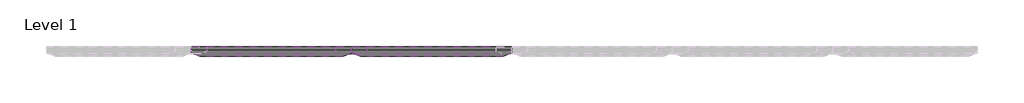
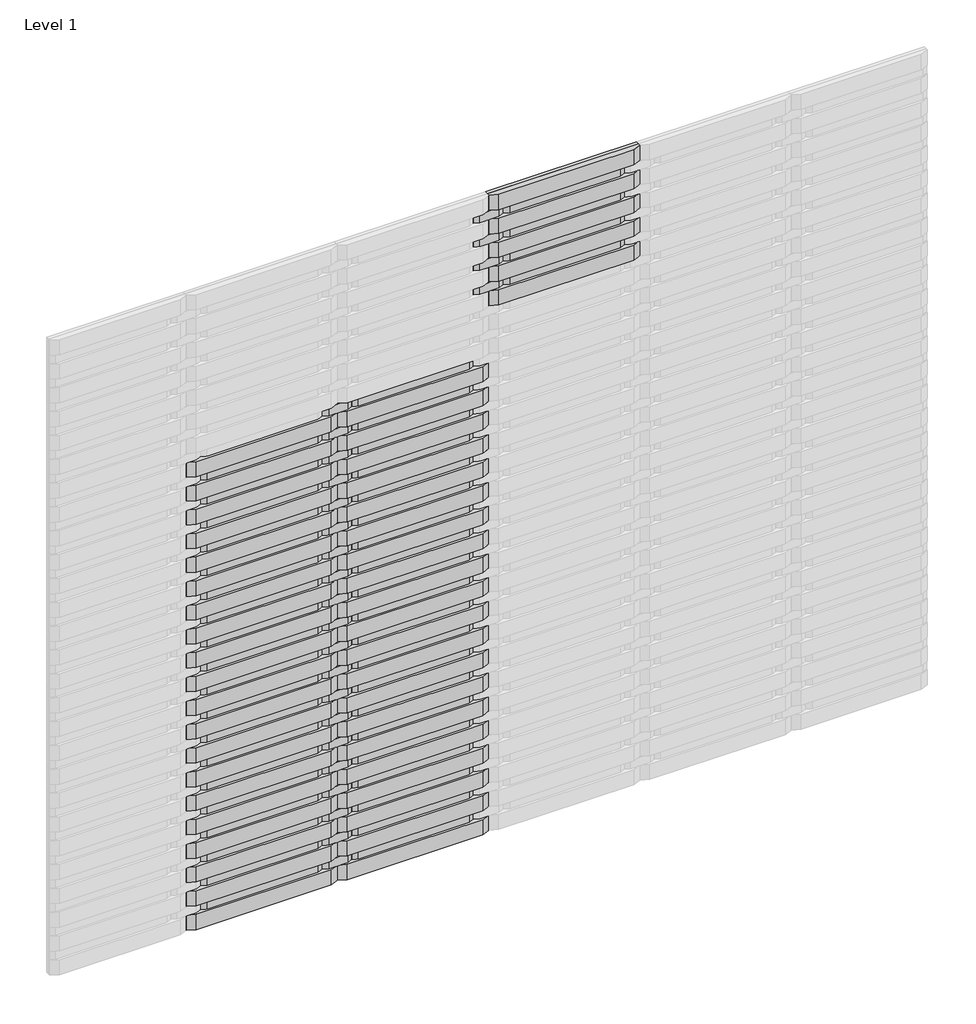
# One storey, part 2 of 4: 112 proxies.
"""IFC4 building model written with IfcOpenShell, lengths in millimetres."""

from ifc_helpers import new_model, si_unit, origin, place, context, project, spatial, transform, mapped, element, save
from components import specialty_equipment_40f1bc00, specialty_equipment_c238b70d, specialty_equipment_e09701c8

model = new_model("IFC4")

# Units and contexts
model_context = context("Model", 3, world=origin())
ifc_project = project(units=[si_unit("LENGTHUNIT", "METRE", prefix="MILLI")], contexts=[model_context])

# Site, building, storey
site = spatial("IfcSite", under=ifc_project)
building = spatial("IfcBuilding", under=site)
storey = spatial("IfcBuildingStorey", under=building, Name="Level 1", Elevation=0.0)

# Proxies
placement = place(None, origin())
specialty_equipment_shape = specialty_equipment_40f1bc00(model_context)
element("IfcBuildingElementProxy", 1, Name="Spinneybeck_ARO Plank 8 : A - 2’-9” x 3 1/2” x 1 1/4”", ObjectType="Spinneybeck_ARO Plank 8 : A - 2’-9” x 3 1/2” x 1 1/4”", at=placement, inside=storey, context=model_context, shape_type="MappedRepresentation", body=[
    mapped(specialty_equipment_shape, transform((2814.579612, 2593.3070483, 3755.55), x_axis=(1.0, 0.0, 0.0), y_axis=(0.0, 0.0, 1.0), z_axis=(0.0, -1.0, 0.0))),
])
element("IfcBuildingElementProxy", 2, Name="Spinneybeck_ARO Plank 8 : A - 2’-9” x 3 1/2” x 1 1/4”", ObjectType="Spinneybeck_ARO Plank 8 : A - 2’-9” x 3 1/2” x 1 1/4”", at=placement, inside=storey, context=model_context, shape_type="MappedRepresentation", body=[
    mapped(specialty_equipment_shape, transform((2814.579612, 2593.3070483, 3615.85), x_axis=(1.0, 0.0, 0.0), y_axis=(0.0, 0.0, 1.0), z_axis=(0.0, -1.0, 0.0))),
])
element("IfcBuildingElementProxy", 3, Name="Spinneybeck_ARO Plank 8 : A - 2’-9” x 3 1/2” x 1 1/4”", ObjectType="Spinneybeck_ARO Plank 8 : A - 2’-9” x 3 1/2” x 1 1/4”", at=placement, inside=storey, context=model_context, shape_type="MappedRepresentation", body=[
    mapped(specialty_equipment_shape, transform((2814.579612, 2593.3070483, 3476.15), x_axis=(1.0, 0.0, 0.0), y_axis=(0.0, 0.0, 1.0), z_axis=(0.0, -1.0, 0.0))),
])
element("IfcBuildingElementProxy", 4, Name="Spinneybeck_ARO Plank 8 : A - 2’-9” x 3 1/2” x 1 1/4”", ObjectType="Spinneybeck_ARO Plank 8 : A - 2’-9” x 3 1/2” x 1 1/4”", at=placement, inside=storey, context=model_context, shape_type="MappedRepresentation", body=[
    mapped(specialty_equipment_shape, transform((2814.579612, 2593.3070483, 3336.45), x_axis=(1.0, 0.0, 0.0), y_axis=(0.0, 0.0, 1.0), z_axis=(0.0, -1.0, 0.0))),
])
element("IfcBuildingElementProxy", 5, Name="Spinneybeck_ARO Plank 8 : A - 2’-9” x 3 1/2” x 1 1/4”", ObjectType="Spinneybeck_ARO Plank 8 : A - 2’-9” x 3 1/2” x 1 1/4”", at=placement, inside=storey, context=model_context, shape_type="MappedRepresentation", body=[
    mapped(specialty_equipment_shape, transform((2814.579612, 2593.3070483, 3196.75), x_axis=(1.0, 0.0, 0.0), y_axis=(0.0, 0.0, 1.0), z_axis=(0.0, -1.0, 0.0))),
])
element("IfcBuildingElementProxy", 6, Name="Spinneybeck_ARO Plank 8 : A - 2’-9” x 3 1/2” x 1 1/4”", ObjectType="Spinneybeck_ARO Plank 8 : A - 2’-9” x 3 1/2” x 1 1/4”", at=placement, inside=storey, context=model_context, shape_type="MappedRepresentation", body=[
    mapped(specialty_equipment_shape, transform((1138.179612, 2593.3070483, 2777.65), x_axis=(1.0, 0.0, 0.0), y_axis=(0.0, 0.0, 1.0), z_axis=(0.0, -1.0, 0.0))),
])
element("IfcBuildingElementProxy", 7, Name="Spinneybeck_ARO Plank 8 : A - 2’-9” x 3 1/2” x 1 1/4”", ObjectType="Spinneybeck_ARO Plank 8 : A - 2’-9” x 3 1/2” x 1 1/4”", at=placement, inside=storey, context=model_context, shape_type="MappedRepresentation", body=[
    mapped(specialty_equipment_shape, transform((1976.379612, 2593.3070483, 2777.65), x_axis=(1.0, 0.0, 0.0), y_axis=(0.0, 0.0, 1.0), z_axis=(0.0, -1.0, 0.0))),
])
element("IfcBuildingElementProxy", 8, Name="Spinneybeck_ARO Plank 8 : A - 2’-9” x 3 1/2” x 1 1/4”", ObjectType="Spinneybeck_ARO Plank 8 : A - 2’-9” x 3 1/2” x 1 1/4”", at=placement, inside=storey, context=model_context, shape_type="MappedRepresentation", body=[
    mapped(specialty_equipment_shape, transform((1138.179612, 2593.3070483, 2637.95), x_axis=(1.0, 0.0, 0.0), y_axis=(0.0, 0.0, 1.0), z_axis=(0.0, -1.0, 0.0))),
])
element("IfcBuildingElementProxy", 9, Name="Spinneybeck_ARO Plank 8 : A - 2’-9” x 3 1/2” x 1 1/4”", ObjectType="Spinneybeck_ARO Plank 8 : A - 2’-9” x 3 1/2” x 1 1/4”", at=placement, inside=storey, context=model_context, shape_type="MappedRepresentation", body=[
    mapped(specialty_equipment_shape, transform((1976.379612, 2593.3070483, 2637.95), x_axis=(1.0, 0.0, 0.0), y_axis=(0.0, 0.0, 1.0), z_axis=(0.0, -1.0, 0.0))),
])
element("IfcBuildingElementProxy", 10, Name="Spinneybeck_ARO Plank 8 : A - 2’-9” x 3 1/2” x 1 1/4”", ObjectType="Spinneybeck_ARO Plank 8 : A - 2’-9” x 3 1/2” x 1 1/4”", at=placement, inside=storey, context=model_context, shape_type="MappedRepresentation", body=[
    mapped(specialty_equipment_shape, transform((1138.179612, 2593.3070483, 2498.25), x_axis=(1.0, 0.0, 0.0), y_axis=(0.0, 0.0, 1.0), z_axis=(0.0, -1.0, 0.0))),
])
element("IfcBuildingElementProxy", 11, Name="Spinneybeck_ARO Plank 8 : A - 2’-9” x 3 1/2” x 1 1/4”", ObjectType="Spinneybeck_ARO Plank 8 : A - 2’-9” x 3 1/2” x 1 1/4”", at=placement, inside=storey, context=model_context, shape_type="MappedRepresentation", body=[
    mapped(specialty_equipment_shape, transform((1976.379612, 2593.3070483, 2498.25), x_axis=(1.0, 0.0, 0.0), y_axis=(0.0, 0.0, 1.0), z_axis=(0.0, -1.0, 0.0))),
])
element("IfcBuildingElementProxy", 12, Name="Spinneybeck_ARO Plank 8 : A - 2’-9” x 3 1/2” x 1 1/4”", ObjectType="Spinneybeck_ARO Plank 8 : A - 2’-9” x 3 1/2” x 1 1/4”", at=placement, inside=storey, context=model_context, shape_type="MappedRepresentation", body=[
    mapped(specialty_equipment_shape, transform((1138.179612, 2593.3070483, 2358.55), x_axis=(1.0, 0.0, 0.0), y_axis=(0.0, 0.0, 1.0), z_axis=(0.0, -1.0, 0.0))),
])
element("IfcBuildingElementProxy", 13, Name="Spinneybeck_ARO Plank 8 : A - 2’-9” x 3 1/2” x 1 1/4”", ObjectType="Spinneybeck_ARO Plank 8 : A - 2’-9” x 3 1/2” x 1 1/4”", at=placement, inside=storey, context=model_context, shape_type="MappedRepresentation", body=[
    mapped(specialty_equipment_shape, transform((1976.379612, 2593.3070483, 2358.55), x_axis=(1.0, 0.0, 0.0), y_axis=(0.0, 0.0, 1.0), z_axis=(0.0, -1.0, 0.0))),
])
element("IfcBuildingElementProxy", 14, Name="Spinneybeck_ARO Plank 8 : A - 2’-9” x 3 1/2” x 1 1/4”", ObjectType="Spinneybeck_ARO Plank 8 : A - 2’-9” x 3 1/2” x 1 1/4”", at=placement, inside=storey, context=model_context, shape_type="MappedRepresentation", body=[
    mapped(specialty_equipment_shape, transform((1138.179612, 2593.3070483, 2218.85), x_axis=(1.0, 0.0, 0.0), y_axis=(0.0, 0.0, 1.0), z_axis=(0.0, -1.0, 0.0))),
])
element("IfcBuildingElementProxy", 15, Name="Spinneybeck_ARO Plank 8 : A - 2’-9” x 3 1/2” x 1 1/4”", ObjectType="Spinneybeck_ARO Plank 8 : A - 2’-9” x 3 1/2” x 1 1/4”", at=placement, inside=storey, context=model_context, shape_type="MappedRepresentation", body=[
    mapped(specialty_equipment_shape, transform((1976.379612, 2593.3070483, 2218.85), x_axis=(1.0, 0.0, 0.0), y_axis=(0.0, 0.0, 1.0), z_axis=(0.0, -1.0, 0.0))),
])
element("IfcBuildingElementProxy", 16, Name="Spinneybeck_ARO Plank 8 : A - 2’-9” x 3 1/2” x 1 1/4”", ObjectType="Spinneybeck_ARO Plank 8 : A - 2’-9” x 3 1/2” x 1 1/4”", at=placement, inside=storey, context=model_context, shape_type="MappedRepresentation", body=[
    mapped(specialty_equipment_shape, transform((1138.179612, 2593.3070483, 2079.15), x_axis=(1.0, 0.0, 0.0), y_axis=(0.0, 0.0, 1.0), z_axis=(0.0, -1.0, 0.0))),
])
element("IfcBuildingElementProxy", 17, Name="Spinneybeck_ARO Plank 8 : A - 2’-9” x 3 1/2” x 1 1/4”", ObjectType="Spinneybeck_ARO Plank 8 : A - 2’-9” x 3 1/2” x 1 1/4”", at=placement, inside=storey, context=model_context, shape_type="MappedRepresentation", body=[
    mapped(specialty_equipment_shape, transform((1976.379612, 2593.3070483, 2079.15), x_axis=(1.0, 0.0, 0.0), y_axis=(0.0, 0.0, 1.0), z_axis=(0.0, -1.0, 0.0))),
])
element("IfcBuildingElementProxy", 18, Name="Spinneybeck_ARO Plank 8 : A - 2’-9” x 3 1/2” x 1 1/4”", ObjectType="Spinneybeck_ARO Plank 8 : A - 2’-9” x 3 1/2” x 1 1/4”", at=placement, inside=storey, context=model_context, shape_type="MappedRepresentation", body=[
    mapped(specialty_equipment_shape, transform((1138.179612, 2593.3070483, 1939.45), x_axis=(1.0, 0.0, 0.0), y_axis=(0.0, 0.0, 1.0), z_axis=(0.0, -1.0, 0.0))),
])
element("IfcBuildingElementProxy", 19, Name="Spinneybeck_ARO Plank 8 : A - 2’-9” x 3 1/2” x 1 1/4”", ObjectType="Spinneybeck_ARO Plank 8 : A - 2’-9” x 3 1/2” x 1 1/4”", at=placement, inside=storey, context=model_context, shape_type="MappedRepresentation", body=[
    mapped(specialty_equipment_shape, transform((1976.379612, 2593.3070483, 1939.45), x_axis=(1.0, 0.0, 0.0), y_axis=(0.0, 0.0, 1.0), z_axis=(0.0, -1.0, 0.0))),
])
element("IfcBuildingElementProxy", 20, Name="Spinneybeck_ARO Plank 8 : A - 2’-9” x 3 1/2” x 1 1/4”", ObjectType="Spinneybeck_ARO Plank 8 : A - 2’-9” x 3 1/2” x 1 1/4”", at=placement, inside=storey, context=model_context, shape_type="MappedRepresentation", body=[
    mapped(specialty_equipment_shape, transform((1138.179612, 2593.3070483, 1799.75), x_axis=(1.0, 0.0, 0.0), y_axis=(0.0, 0.0, 1.0), z_axis=(0.0, -1.0, 0.0))),
])
element("IfcBuildingElementProxy", 21, Name="Spinneybeck_ARO Plank 8 : A - 2’-9” x 3 1/2” x 1 1/4”", ObjectType="Spinneybeck_ARO Plank 8 : A - 2’-9” x 3 1/2” x 1 1/4”", at=placement, inside=storey, context=model_context, shape_type="MappedRepresentation", body=[
    mapped(specialty_equipment_shape, transform((1976.379612, 2593.3070483, 1799.75), x_axis=(1.0, 0.0, 0.0), y_axis=(0.0, 0.0, 1.0), z_axis=(0.0, -1.0, 0.0))),
])
element("IfcBuildingElementProxy", 22, Name="Spinneybeck_ARO Plank 8 : A - 2’-9” x 3 1/2” x 1 1/4”", ObjectType="Spinneybeck_ARO Plank 8 : A - 2’-9” x 3 1/2” x 1 1/4”", at=placement, inside=storey, context=model_context, shape_type="MappedRepresentation", body=[
    mapped(specialty_equipment_shape, transform((1138.179612, 2593.3070483, 1660.05), x_axis=(1.0, 0.0, 0.0), y_axis=(0.0, 0.0, 1.0), z_axis=(0.0, -1.0, 0.0))),
])
element("IfcBuildingElementProxy", 23, Name="Spinneybeck_ARO Plank 8 : A - 2’-9” x 3 1/2” x 1 1/4”", ObjectType="Spinneybeck_ARO Plank 8 : A - 2’-9” x 3 1/2” x 1 1/4”", at=placement, inside=storey, context=model_context, shape_type="MappedRepresentation", body=[
    mapped(specialty_equipment_shape, transform((1976.379612, 2593.3070483, 1660.05), x_axis=(1.0, 0.0, 0.0), y_axis=(0.0, 0.0, 1.0), z_axis=(0.0, -1.0, 0.0))),
])
element("IfcBuildingElementProxy", 24, Name="Spinneybeck_ARO Plank 8 : A - 2’-9” x 3 1/2” x 1 1/4”", ObjectType="Spinneybeck_ARO Plank 8 : A - 2’-9” x 3 1/2” x 1 1/4”", at=placement, inside=storey, context=model_context, shape_type="MappedRepresentation", body=[
    mapped(specialty_equipment_shape, transform((1138.179612, 2593.3070483, 1520.35), x_axis=(1.0, 0.0, 0.0), y_axis=(0.0, 0.0, 1.0), z_axis=(0.0, -1.0, 0.0))),
])
element("IfcBuildingElementProxy", 25, Name="Spinneybeck_ARO Plank 8 : A - 2’-9” x 3 1/2” x 1 1/4”", ObjectType="Spinneybeck_ARO Plank 8 : A - 2’-9” x 3 1/2” x 1 1/4”", at=placement, inside=storey, context=model_context, shape_type="MappedRepresentation", body=[
    mapped(specialty_equipment_shape, transform((1976.379612, 2593.3070483, 1520.35), x_axis=(1.0, 0.0, 0.0), y_axis=(0.0, 0.0, 1.0), z_axis=(0.0, -1.0, 0.0))),
])
element("IfcBuildingElementProxy", 26, Name="Spinneybeck_ARO Plank 8 : A - 2’-9” x 3 1/2” x 1 1/4”", ObjectType="Spinneybeck_ARO Plank 8 : A - 2’-9” x 3 1/2” x 1 1/4”", at=placement, inside=storey, context=model_context, shape_type="MappedRepresentation", body=[
    mapped(specialty_equipment_shape, transform((1138.179612, 2593.3070483, 1380.65), x_axis=(1.0, 0.0, 0.0), y_axis=(0.0, 0.0, 1.0), z_axis=(0.0, -1.0, 0.0))),
])
element("IfcBuildingElementProxy", 27, Name="Spinneybeck_ARO Plank 8 : A - 2’-9” x 3 1/2” x 1 1/4”", ObjectType="Spinneybeck_ARO Plank 8 : A - 2’-9” x 3 1/2” x 1 1/4”", at=placement, inside=storey, context=model_context, shape_type="MappedRepresentation", body=[
    mapped(specialty_equipment_shape, transform((1976.379612, 2593.3070483, 1380.65), x_axis=(1.0, 0.0, 0.0), y_axis=(0.0, 0.0, 1.0), z_axis=(0.0, -1.0, 0.0))),
])
element("IfcBuildingElementProxy", 28, Name="Spinneybeck_ARO Plank 8 : A - 2’-9” x 3 1/2” x 1 1/4”", ObjectType="Spinneybeck_ARO Plank 8 : A - 2’-9” x 3 1/2” x 1 1/4”", at=placement, inside=storey, context=model_context, shape_type="MappedRepresentation", body=[
    mapped(specialty_equipment_shape, transform((1138.179612, 2593.3070483, 1240.95), x_axis=(1.0, 0.0, 0.0), y_axis=(0.0, 0.0, 1.0), z_axis=(0.0, -1.0, 0.0))),
])
element("IfcBuildingElementProxy", 29, Name="Spinneybeck_ARO Plank 8 : A - 2’-9” x 3 1/2” x 1 1/4”", ObjectType="Spinneybeck_ARO Plank 8 : A - 2’-9” x 3 1/2” x 1 1/4”", at=placement, inside=storey, context=model_context, shape_type="MappedRepresentation", body=[
    mapped(specialty_equipment_shape, transform((1976.379612, 2593.3070483, 1240.95), x_axis=(1.0, 0.0, 0.0), y_axis=(0.0, 0.0, 1.0), z_axis=(0.0, -1.0, 0.0))),
])
element("IfcBuildingElementProxy", 30, Name="Spinneybeck_ARO Plank 8 : A - 2’-9” x 3 1/2” x 1 1/4”", ObjectType="Spinneybeck_ARO Plank 8 : A - 2’-9” x 3 1/2” x 1 1/4”", at=placement, inside=storey, context=model_context, shape_type="MappedRepresentation", body=[
    mapped(specialty_equipment_shape, transform((1138.179612, 2593.3070483, 1101.25), x_axis=(1.0, 0.0, 0.0), y_axis=(0.0, 0.0, 1.0), z_axis=(0.0, -1.0, 0.0))),
])
element("IfcBuildingElementProxy", 31, Name="Spinneybeck_ARO Plank 8 : A - 2’-9” x 3 1/2” x 1 1/4”", ObjectType="Spinneybeck_ARO Plank 8 : A - 2’-9” x 3 1/2” x 1 1/4”", at=placement, inside=storey, context=model_context, shape_type="MappedRepresentation", body=[
    mapped(specialty_equipment_shape, transform((1976.379612, 2593.3070483, 1101.25), x_axis=(1.0, 0.0, 0.0), y_axis=(0.0, 0.0, 1.0), z_axis=(0.0, -1.0, 0.0))),
])
element("IfcBuildingElementProxy", 32, Name="Spinneybeck_ARO Plank 8 : A - 2’-9” x 3 1/2” x 1 1/4”", ObjectType="Spinneybeck_ARO Plank 8 : A - 2’-9” x 3 1/2” x 1 1/4”", at=placement, inside=storey, context=model_context, shape_type="MappedRepresentation", body=[
    mapped(specialty_equipment_shape, transform((1138.179612, 2593.3070483, 961.55), x_axis=(1.0, 0.0, 0.0), y_axis=(0.0, 0.0, 1.0), z_axis=(0.0, -1.0, 0.0))),
])
element("IfcBuildingElementProxy", 33, Name="Spinneybeck_ARO Plank 8 : A - 2’-9” x 3 1/2” x 1 1/4”", ObjectType="Spinneybeck_ARO Plank 8 : A - 2’-9” x 3 1/2” x 1 1/4”", at=placement, inside=storey, context=model_context, shape_type="MappedRepresentation", body=[
    mapped(specialty_equipment_shape, transform((1976.379612, 2593.3070483, 961.55), x_axis=(1.0, 0.0, 0.0), y_axis=(0.0, 0.0, 1.0), z_axis=(0.0, -1.0, 0.0))),
])
element("IfcBuildingElementProxy", 34, Name="Spinneybeck_ARO Plank 8 : A - 2’-9” x 3 1/2” x 1 1/4”", ObjectType="Spinneybeck_ARO Plank 8 : A - 2’-9” x 3 1/2” x 1 1/4”", at=placement, inside=storey, context=model_context, shape_type="MappedRepresentation", body=[
    mapped(specialty_equipment_shape, transform((1138.179612, 2593.3070483, 821.85), x_axis=(1.0, 0.0, 0.0), y_axis=(0.0, 0.0, 1.0), z_axis=(0.0, -1.0, 0.0))),
])
element("IfcBuildingElementProxy", 35, Name="Spinneybeck_ARO Plank 8 : A - 2’-9” x 3 1/2” x 1 1/4”", ObjectType="Spinneybeck_ARO Plank 8 : A - 2’-9” x 3 1/2” x 1 1/4”", at=placement, inside=storey, context=model_context, shape_type="MappedRepresentation", body=[
    mapped(specialty_equipment_shape, transform((1976.379612, 2593.3070483, 821.85), x_axis=(1.0, 0.0, 0.0), y_axis=(0.0, 0.0, 1.0), z_axis=(0.0, -1.0, 0.0))),
])
element("IfcBuildingElementProxy", 36, Name="Spinneybeck_ARO Plank 8 : A - 2’-9” x 3 1/2” x 1 1/4”", ObjectType="Spinneybeck_ARO Plank 8 : A - 2’-9” x 3 1/2” x 1 1/4”", at=placement, inside=storey, context=model_context, shape_type="MappedRepresentation", body=[
    mapped(specialty_equipment_shape, transform((1138.179612, 2593.3070483, 682.15), x_axis=(1.0, 0.0, 0.0), y_axis=(0.0, 0.0, 1.0), z_axis=(0.0, -1.0, 0.0))),
])
element("IfcBuildingElementProxy", 37, Name="Spinneybeck_ARO Plank 8 : A - 2’-9” x 3 1/2” x 1 1/4”", ObjectType="Spinneybeck_ARO Plank 8 : A - 2’-9” x 3 1/2” x 1 1/4”", at=placement, inside=storey, context=model_context, shape_type="MappedRepresentation", body=[
    mapped(specialty_equipment_shape, transform((1976.379612, 2593.3070483, 682.15), x_axis=(1.0, 0.0, 0.0), y_axis=(0.0, 0.0, 1.0), z_axis=(0.0, -1.0, 0.0))),
])
element("IfcBuildingElementProxy", 38, Name="Spinneybeck_ARO Plank 8 : A - 2’-9” x 3 1/2” x 1 1/4”", ObjectType="Spinneybeck_ARO Plank 8 : A - 2’-9” x 3 1/2” x 1 1/4”", at=placement, inside=storey, context=model_context, shape_type="MappedRepresentation", body=[
    mapped(specialty_equipment_shape, transform((1138.179612, 2593.3070483, 542.45), x_axis=(1.0, 0.0, 0.0), y_axis=(0.0, 0.0, 1.0), z_axis=(0.0, -1.0, 0.0))),
])
element("IfcBuildingElementProxy", 39, Name="Spinneybeck_ARO Plank 8 : A - 2’-9” x 3 1/2” x 1 1/4”", ObjectType="Spinneybeck_ARO Plank 8 : A - 2’-9” x 3 1/2” x 1 1/4”", at=placement, inside=storey, context=model_context, shape_type="MappedRepresentation", body=[
    mapped(specialty_equipment_shape, transform((1976.379612, 2593.3070483, 542.45), x_axis=(1.0, 0.0, 0.0), y_axis=(0.0, 0.0, 1.0), z_axis=(0.0, -1.0, 0.0))),
])
element("IfcBuildingElementProxy", 40, Name="Spinneybeck_ARO Plank 8 : A - 2’-9” x 3 1/2” x 1 1/4”", ObjectType="Spinneybeck_ARO Plank 8 : A - 2’-9” x 3 1/2” x 1 1/4”", at=placement, inside=storey, context=model_context, shape_type="MappedRepresentation", body=[
    mapped(specialty_equipment_shape, transform((1138.179612, 2593.3070483, 402.75), x_axis=(1.0, 0.0, 0.0), y_axis=(0.0, 0.0, 1.0), z_axis=(0.0, -1.0, 0.0))),
])
element("IfcBuildingElementProxy", 41, Name="Spinneybeck_ARO Plank 8 : A - 2’-9” x 3 1/2” x 1 1/4”", ObjectType="Spinneybeck_ARO Plank 8 : A - 2’-9” x 3 1/2” x 1 1/4”", at=placement, inside=storey, context=model_context, shape_type="MappedRepresentation", body=[
    mapped(specialty_equipment_shape, transform((1976.379612, 2593.3070483, 402.75), x_axis=(1.0, 0.0, 0.0), y_axis=(0.0, 0.0, 1.0), z_axis=(0.0, -1.0, 0.0))),
])
element("IfcBuildingElementProxy", 42, Name="Spinneybeck_ARO Plank 8 : A - 2’-9” x 3 1/2” x 1 1/4”", ObjectType="Spinneybeck_ARO Plank 8 : A - 2’-9” x 3 1/2” x 1 1/4”", at=placement, inside=storey, context=model_context, shape_type="MappedRepresentation", body=[
    mapped(specialty_equipment_shape, transform((1138.179612, 2593.3070483, 263.05), x_axis=(1.0, 0.0, 0.0), y_axis=(0.0, 0.0, 1.0), z_axis=(0.0, -1.0, 0.0))),
])
element("IfcBuildingElementProxy", 43, Name="Spinneybeck_ARO Plank 8 : A - 2’-9” x 3 1/2” x 1 1/4”", ObjectType="Spinneybeck_ARO Plank 8 : A - 2’-9” x 3 1/2” x 1 1/4”", at=placement, inside=storey, context=model_context, shape_type="MappedRepresentation", body=[
    mapped(specialty_equipment_shape, transform((1976.379612, 2593.3070483, 263.05), x_axis=(1.0, 0.0, 0.0), y_axis=(0.0, 0.0, 1.0), z_axis=(0.0, -1.0, 0.0))),
])
element("IfcBuildingElementProxy", 44, Name="Spinneybeck_ARO Plank 8 : A - 2’-9” x 3 1/2” x 1 1/4”", ObjectType="Spinneybeck_ARO Plank 8 : A - 2’-9” x 3 1/2” x 1 1/4”", at=placement, inside=storey, context=model_context, shape_type="MappedRepresentation", body=[
    mapped(specialty_equipment_shape, transform((1138.179612, 2593.3070483, 123.35), x_axis=(1.0, 0.0, 0.0), y_axis=(0.0, 0.0, 1.0), z_axis=(0.0, -1.0, 0.0))),
])
element("IfcBuildingElementProxy", 45, Name="Spinneybeck_ARO Plank 8 : A - 2’-9” x 3 1/2” x 1 1/4”", ObjectType="Spinneybeck_ARO Plank 8 : A - 2’-9” x 3 1/2” x 1 1/4”", at=placement, inside=storey, context=model_context, shape_type="MappedRepresentation", body=[
    mapped(specialty_equipment_shape, transform((1976.379612, 2593.3070483, 123.35), x_axis=(1.0, 0.0, 0.0), y_axis=(0.0, 0.0, 1.0), z_axis=(0.0, -1.0, 0.0))),
])
specialty_equipment_2_shape = specialty_equipment_c238b70d(model_context)
element("IfcBuildingElementProxy", 46, Name="Spinneybeck_ARO Plank 8 : E - 6 1/2” x 2” x 3/4”", ObjectType="Spinneybeck_ARO Plank 8 : E - 6 1/2” x 2” x 3/4”", at=placement, inside=storey, context=model_context, shape_type="MappedRepresentation", body=[
    mapped(specialty_equipment_2_shape, transform((2395.479612, 2593.3070483, 3685.7), x_axis=(1.0, 0.0, 0.0), y_axis=(0.0, 0.0, 1.0), z_axis=(0.0, -1.0, 0.0))),
])
element("IfcBuildingElementProxy", 47, Name="Spinneybeck_ARO Plank 8 : E - 6 1/2” x 2” x 3/4”", ObjectType="Spinneybeck_ARO Plank 8 : E - 6 1/2” x 2” x 3/4”", at=placement, inside=storey, context=model_context, shape_type="MappedRepresentation", body=[
    mapped(specialty_equipment_2_shape, transform((2395.479612, 2593.3070483, 3546.0), x_axis=(1.0, 0.0, 0.0), y_axis=(0.0, 0.0, 1.0), z_axis=(0.0, -1.0, 0.0))),
])
element("IfcBuildingElementProxy", 48, Name="Spinneybeck_ARO Plank 8 : E - 6 1/2” x 2” x 3/4”", ObjectType="Spinneybeck_ARO Plank 8 : E - 6 1/2” x 2” x 3/4”", at=placement, inside=storey, context=model_context, shape_type="MappedRepresentation", body=[
    mapped(specialty_equipment_2_shape, transform((2395.479612, 2593.3070483, 3406.3), x_axis=(1.0, 0.0, 0.0), y_axis=(0.0, 0.0, 1.0), z_axis=(0.0, -1.0, 0.0))),
])
element("IfcBuildingElementProxy", 49, Name="Spinneybeck_ARO Plank 8 : E - 6 1/2” x 2” x 3/4”", ObjectType="Spinneybeck_ARO Plank 8 : E - 6 1/2” x 2” x 3/4”", at=placement, inside=storey, context=model_context, shape_type="MappedRepresentation", body=[
    mapped(specialty_equipment_2_shape, transform((2395.479612, 2593.3070483, 3266.6), x_axis=(1.0, 0.0, 0.0), y_axis=(0.0, 0.0, 1.0), z_axis=(0.0, -1.0, 0.0))),
])
element("IfcBuildingElementProxy", 50, Name="Spinneybeck_ARO Plank 8 : E - 6 1/2” x 2” x 3/4”", ObjectType="Spinneybeck_ARO Plank 8 : E - 6 1/2” x 2” x 3/4”", at=placement, inside=storey, context=model_context, shape_type="MappedRepresentation", body=[
    mapped(specialty_equipment_2_shape, transform((1557.279612, 2593.3070483, 2847.5), x_axis=(1.0, 0.0, 0.0), y_axis=(0.0, 0.0, 1.0), z_axis=(0.0, -1.0, 0.0))),
])
element("IfcBuildingElementProxy", 51, Name="Spinneybeck_ARO Plank 8 : E - 6 1/2” x 2” x 3/4”", ObjectType="Spinneybeck_ARO Plank 8 : E - 6 1/2” x 2” x 3/4”", at=placement, inside=storey, context=model_context, shape_type="MappedRepresentation", body=[
    mapped(specialty_equipment_2_shape, transform((1557.279612, 2593.3070483, 2707.8), x_axis=(1.0, 0.0, 0.0), y_axis=(0.0, 0.0, 1.0), z_axis=(0.0, -1.0, 0.0))),
])
element("IfcBuildingElementProxy", 52, Name="Spinneybeck_ARO Plank 8 : E - 6 1/2” x 2” x 3/4”", ObjectType="Spinneybeck_ARO Plank 8 : E - 6 1/2” x 2” x 3/4”", at=placement, inside=storey, context=model_context, shape_type="MappedRepresentation", body=[
    mapped(specialty_equipment_2_shape, transform((1557.279612, 2593.3070483, 2568.1), x_axis=(1.0, 0.0, 0.0), y_axis=(0.0, 0.0, 1.0), z_axis=(0.0, -1.0, 0.0))),
])
element("IfcBuildingElementProxy", 53, Name="Spinneybeck_ARO Plank 8 : E - 6 1/2” x 2” x 3/4”", ObjectType="Spinneybeck_ARO Plank 8 : E - 6 1/2” x 2” x 3/4”", at=placement, inside=storey, context=model_context, shape_type="MappedRepresentation", body=[
    mapped(specialty_equipment_2_shape, transform((1557.279612, 2593.3070483, 2428.4), x_axis=(1.0, 0.0, 0.0), y_axis=(0.0, 0.0, 1.0), z_axis=(0.0, -1.0, 0.0))),
])
element("IfcBuildingElementProxy", 54, Name="Spinneybeck_ARO Plank 8 : E - 6 1/2” x 2” x 3/4”", ObjectType="Spinneybeck_ARO Plank 8 : E - 6 1/2” x 2” x 3/4”", at=placement, inside=storey, context=model_context, shape_type="MappedRepresentation", body=[
    mapped(specialty_equipment_2_shape, transform((1557.279612, 2593.3070483, 2288.7), x_axis=(1.0, 0.0, 0.0), y_axis=(0.0, 0.0, 1.0), z_axis=(0.0, -1.0, 0.0))),
])
element("IfcBuildingElementProxy", 55, Name="Spinneybeck_ARO Plank 8 : E - 6 1/2” x 2” x 3/4”", ObjectType="Spinneybeck_ARO Plank 8 : E - 6 1/2” x 2” x 3/4”", at=placement, inside=storey, context=model_context, shape_type="MappedRepresentation", body=[
    mapped(specialty_equipment_2_shape, transform((1557.279612, 2593.3070483, 2149.0), x_axis=(1.0, 0.0, 0.0), y_axis=(0.0, 0.0, 1.0), z_axis=(0.0, -1.0, 0.0))),
])
element("IfcBuildingElementProxy", 56, Name="Spinneybeck_ARO Plank 8 : E - 6 1/2” x 2” x 3/4”", ObjectType="Spinneybeck_ARO Plank 8 : E - 6 1/2” x 2” x 3/4”", at=placement, inside=storey, context=model_context, shape_type="MappedRepresentation", body=[
    mapped(specialty_equipment_2_shape, transform((1557.279612, 2593.3070483, 2009.3), x_axis=(1.0, 0.0, 0.0), y_axis=(0.0, 0.0, 1.0), z_axis=(0.0, -1.0, 0.0))),
])
element("IfcBuildingElementProxy", 57, Name="Spinneybeck_ARO Plank 8 : E - 6 1/2” x 2” x 3/4”", ObjectType="Spinneybeck_ARO Plank 8 : E - 6 1/2” x 2” x 3/4”", at=placement, inside=storey, context=model_context, shape_type="MappedRepresentation", body=[
    mapped(specialty_equipment_2_shape, transform((1557.279612, 2593.3070483, 1869.6), x_axis=(1.0, 0.0, 0.0), y_axis=(0.0, 0.0, 1.0), z_axis=(0.0, -1.0, 0.0))),
])
element("IfcBuildingElementProxy", 58, Name="Spinneybeck_ARO Plank 8 : E - 6 1/2” x 2” x 3/4”", ObjectType="Spinneybeck_ARO Plank 8 : E - 6 1/2” x 2” x 3/4”", at=placement, inside=storey, context=model_context, shape_type="MappedRepresentation", body=[
    mapped(specialty_equipment_2_shape, transform((1557.279612, 2593.3070483, 1729.9), x_axis=(1.0, 0.0, 0.0), y_axis=(0.0, 0.0, 1.0), z_axis=(0.0, -1.0, 0.0))),
])
element("IfcBuildingElementProxy", 59, Name="Spinneybeck_ARO Plank 8 : E - 6 1/2” x 2” x 3/4”", ObjectType="Spinneybeck_ARO Plank 8 : E - 6 1/2” x 2” x 3/4”", at=placement, inside=storey, context=model_context, shape_type="MappedRepresentation", body=[
    mapped(specialty_equipment_2_shape, transform((1557.279612, 2593.3070483, 1590.2), x_axis=(1.0, 0.0, 0.0), y_axis=(0.0, 0.0, 1.0), z_axis=(0.0, -1.0, 0.0))),
])
element("IfcBuildingElementProxy", 60, Name="Spinneybeck_ARO Plank 8 : E - 6 1/2” x 2” x 3/4”", ObjectType="Spinneybeck_ARO Plank 8 : E - 6 1/2” x 2” x 3/4”", at=placement, inside=storey, context=model_context, shape_type="MappedRepresentation", body=[
    mapped(specialty_equipment_2_shape, transform((1557.279612, 2593.3070483, 1450.5), x_axis=(1.0, 0.0, 0.0), y_axis=(0.0, 0.0, 1.0), z_axis=(0.0, -1.0, 0.0))),
])
element("IfcBuildingElementProxy", 61, Name="Spinneybeck_ARO Plank 8 : E - 6 1/2” x 2” x 3/4”", ObjectType="Spinneybeck_ARO Plank 8 : E - 6 1/2” x 2” x 3/4”", at=placement, inside=storey, context=model_context, shape_type="MappedRepresentation", body=[
    mapped(specialty_equipment_2_shape, transform((1557.279612, 2593.3070483, 1310.8), x_axis=(1.0, 0.0, 0.0), y_axis=(0.0, 0.0, 1.0), z_axis=(0.0, -1.0, 0.0))),
])
element("IfcBuildingElementProxy", 62, Name="Spinneybeck_ARO Plank 8 : E - 6 1/2” x 2” x 3/4”", ObjectType="Spinneybeck_ARO Plank 8 : E - 6 1/2” x 2” x 3/4”", at=placement, inside=storey, context=model_context, shape_type="MappedRepresentation", body=[
    mapped(specialty_equipment_2_shape, transform((1557.279612, 2593.3070483, 1171.1), x_axis=(1.0, 0.0, 0.0), y_axis=(0.0, 0.0, 1.0), z_axis=(0.0, -1.0, 0.0))),
])
element("IfcBuildingElementProxy", 63, Name="Spinneybeck_ARO Plank 8 : E - 6 1/2” x 2” x 3/4”", ObjectType="Spinneybeck_ARO Plank 8 : E - 6 1/2” x 2” x 3/4”", at=placement, inside=storey, context=model_context, shape_type="MappedRepresentation", body=[
    mapped(specialty_equipment_2_shape, transform((1557.279612, 2593.3070483, 1031.4), x_axis=(1.0, 0.0, 0.0), y_axis=(0.0, 0.0, 1.0), z_axis=(0.0, -1.0, 0.0))),
])
element("IfcBuildingElementProxy", 64, Name="Spinneybeck_ARO Plank 8 : E - 6 1/2” x 2” x 3/4”", ObjectType="Spinneybeck_ARO Plank 8 : E - 6 1/2” x 2” x 3/4”", at=placement, inside=storey, context=model_context, shape_type="MappedRepresentation", body=[
    mapped(specialty_equipment_2_shape, transform((1557.279612, 2593.3070483, 891.7), x_axis=(1.0, 0.0, 0.0), y_axis=(0.0, 0.0, 1.0), z_axis=(0.0, -1.0, 0.0))),
])
element("IfcBuildingElementProxy", 65, Name="Spinneybeck_ARO Plank 8 : E - 6 1/2” x 2” x 3/4”", ObjectType="Spinneybeck_ARO Plank 8 : E - 6 1/2” x 2” x 3/4”", at=placement, inside=storey, context=model_context, shape_type="MappedRepresentation", body=[
    mapped(specialty_equipment_2_shape, transform((1557.279612, 2593.3070483, 752.0), x_axis=(1.0, 0.0, 0.0), y_axis=(0.0, 0.0, 1.0), z_axis=(0.0, -1.0, 0.0))),
])
element("IfcBuildingElementProxy", 66, Name="Spinneybeck_ARO Plank 8 : E - 6 1/2” x 2” x 3/4”", ObjectType="Spinneybeck_ARO Plank 8 : E - 6 1/2” x 2” x 3/4”", at=placement, inside=storey, context=model_context, shape_type="MappedRepresentation", body=[
    mapped(specialty_equipment_2_shape, transform((1557.279612, 2593.3070483, 612.3), x_axis=(1.0, 0.0, 0.0), y_axis=(0.0, 0.0, 1.0), z_axis=(0.0, -1.0, 0.0))),
])
element("IfcBuildingElementProxy", 67, Name="Spinneybeck_ARO Plank 8 : E - 6 1/2” x 2” x 3/4”", ObjectType="Spinneybeck_ARO Plank 8 : E - 6 1/2” x 2” x 3/4”", at=placement, inside=storey, context=model_context, shape_type="MappedRepresentation", body=[
    mapped(specialty_equipment_2_shape, transform((1557.279612, 2593.3070483, 472.6), x_axis=(1.0, 0.0, 0.0), y_axis=(0.0, 0.0, 1.0), z_axis=(0.0, -1.0, 0.0))),
])
element("IfcBuildingElementProxy", 68, Name="Spinneybeck_ARO Plank 8 : E - 6 1/2” x 2” x 3/4”", ObjectType="Spinneybeck_ARO Plank 8 : E - 6 1/2” x 2” x 3/4”", at=placement, inside=storey, context=model_context, shape_type="MappedRepresentation", body=[
    mapped(specialty_equipment_2_shape, transform((1557.279612, 2593.3070483, 332.9), x_axis=(1.0, 0.0, 0.0), y_axis=(0.0, 0.0, 1.0), z_axis=(0.0, -1.0, 0.0))),
])
element("IfcBuildingElementProxy", 69, Name="Spinneybeck_ARO Plank 8 : E - 6 1/2” x 2” x 3/4”", ObjectType="Spinneybeck_ARO Plank 8 : E - 6 1/2” x 2” x 3/4”", at=placement, inside=storey, context=model_context, shape_type="MappedRepresentation", body=[
    mapped(specialty_equipment_2_shape, transform((1557.279612, 2593.3070483, 193.2), x_axis=(1.0, 0.0, 0.0), y_axis=(0.0, 0.0, 1.0), z_axis=(0.0, -1.0, 0.0))),
])
specialty_equipment_3_shape = specialty_equipment_e09701c8(model_context)
element("IfcBuildingElementProxy", 70, Name="Spinneybeck_ARO Plank 8 : D - 2’-2 1/2” x 2” x 3/4”", ObjectType="Spinneybeck_ARO Plank 8 : D - 2’-2 1/2” x 2” x 3/4”", at=placement, inside=storey, context=model_context, shape_type="MappedRepresentation", body=[
    mapped(specialty_equipment_3_shape, transform((2814.529612, 2593.3070483, 3685.7), x_axis=(-1.0, 0.0, 0.0), y_axis=(0.0, 0.0, -1.0), z_axis=(0.0, -1.0, 0.0))),
])
element("IfcBuildingElementProxy", 71, Name="Spinneybeck_ARO Plank 8 : D - 2’-2 1/2” x 2” x 3/4”", ObjectType="Spinneybeck_ARO Plank 8 : D - 2’-2 1/2” x 2” x 3/4”", at=placement, inside=storey, context=model_context, shape_type="MappedRepresentation", body=[
    mapped(specialty_equipment_3_shape, transform((2814.529612, 2593.3070483, 3546.0), x_axis=(-1.0, 0.0, 0.0), y_axis=(0.0, 0.0, -1.0), z_axis=(0.0, -1.0, 0.0))),
])
element("IfcBuildingElementProxy", 72, Name="Spinneybeck_ARO Plank 8 : D - 2’-2 1/2” x 2” x 3/4”", ObjectType="Spinneybeck_ARO Plank 8 : D - 2’-2 1/2” x 2” x 3/4”", at=placement, inside=storey, context=model_context, shape_type="MappedRepresentation", body=[
    mapped(specialty_equipment_3_shape, transform((2814.529612, 2593.3070483, 3406.3), x_axis=(-1.0, 0.0, 0.0), y_axis=(0.0, 0.0, -1.0), z_axis=(0.0, -1.0, 0.0))),
])
element("IfcBuildingElementProxy", 73, Name="Spinneybeck_ARO Plank 8 : D - 2’-2 1/2” x 2” x 3/4”", ObjectType="Spinneybeck_ARO Plank 8 : D - 2’-2 1/2” x 2” x 3/4”", at=placement, inside=storey, context=model_context, shape_type="MappedRepresentation", body=[
    mapped(specialty_equipment_3_shape, transform((2814.529612, 2593.3070483, 3266.6), x_axis=(-1.0, 0.0, 0.0), y_axis=(0.0, 0.0, -1.0), z_axis=(0.0, -1.0, 0.0))),
])
element("IfcBuildingElementProxy", 74, Name="Spinneybeck_ARO Plank 8 : D - 2’-2 1/2” x 2” x 3/4”", ObjectType="Spinneybeck_ARO Plank 8 : D - 2’-2 1/2” x 2” x 3/4”", at=placement, inside=storey, context=model_context, shape_type="MappedRepresentation", body=[
    mapped(specialty_equipment_3_shape, transform((1976.329612, 2593.3070483, 2847.5), x_axis=(-1.0, 0.0, 0.0), y_axis=(0.0, 0.0, -1.0), z_axis=(0.0, -1.0, 0.0))),
])
element("IfcBuildingElementProxy", 75, Name="Spinneybeck_ARO Plank 8 : D - 2’-2 1/2” x 2” x 3/4”", ObjectType="Spinneybeck_ARO Plank 8 : D - 2’-2 1/2” x 2” x 3/4”", at=placement, inside=storey, context=model_context, shape_type="MappedRepresentation", body=[
    mapped(specialty_equipment_3_shape, transform((1138.129612, 2593.3070483, 2707.8), x_axis=(-1.0, 0.0, 0.0), y_axis=(0.0, 0.0, -1.0), z_axis=(0.0, -1.0, 0.0))),
])
element("IfcBuildingElementProxy", 76, Name="Spinneybeck_ARO Plank 8 : D - 2’-2 1/2” x 2” x 3/4”", ObjectType="Spinneybeck_ARO Plank 8 : D - 2’-2 1/2” x 2” x 3/4”", at=placement, inside=storey, context=model_context, shape_type="MappedRepresentation", body=[
    mapped(specialty_equipment_3_shape, transform((1976.329612, 2593.3070483, 2707.8), x_axis=(-1.0, 0.0, 0.0), y_axis=(0.0, 0.0, -1.0), z_axis=(0.0, -1.0, 0.0))),
])
element("IfcBuildingElementProxy", 77, Name="Spinneybeck_ARO Plank 8 : D - 2’-2 1/2” x 2” x 3/4”", ObjectType="Spinneybeck_ARO Plank 8 : D - 2’-2 1/2” x 2” x 3/4”", at=placement, inside=storey, context=model_context, shape_type="MappedRepresentation", body=[
    mapped(specialty_equipment_3_shape, transform((1138.129612, 2593.3070483, 2568.1), x_axis=(-1.0, 0.0, 0.0), y_axis=(0.0, 0.0, -1.0), z_axis=(0.0, -1.0, 0.0))),
])
element("IfcBuildingElementProxy", 78, Name="Spinneybeck_ARO Plank 8 : D - 2’-2 1/2” x 2” x 3/4”", ObjectType="Spinneybeck_ARO Plank 8 : D - 2’-2 1/2” x 2” x 3/4”", at=placement, inside=storey, context=model_context, shape_type="MappedRepresentation", body=[
    mapped(specialty_equipment_3_shape, transform((1976.329612, 2593.3070483, 2568.1), x_axis=(-1.0, 0.0, 0.0), y_axis=(0.0, 0.0, -1.0), z_axis=(0.0, -1.0, 0.0))),
])
element("IfcBuildingElementProxy", 79, Name="Spinneybeck_ARO Plank 8 : D - 2’-2 1/2” x 2” x 3/4”", ObjectType="Spinneybeck_ARO Plank 8 : D - 2’-2 1/2” x 2” x 3/4”", at=placement, inside=storey, context=model_context, shape_type="MappedRepresentation", body=[
    mapped(specialty_equipment_3_shape, transform((1138.129612, 2593.3070483, 2428.4), x_axis=(-1.0, 0.0, 0.0), y_axis=(0.0, 0.0, -1.0), z_axis=(0.0, -1.0, 0.0))),
])
element("IfcBuildingElementProxy", 80, Name="Spinneybeck_ARO Plank 8 : D - 2’-2 1/2” x 2” x 3/4”", ObjectType="Spinneybeck_ARO Plank 8 : D - 2’-2 1/2” x 2” x 3/4”", at=placement, inside=storey, context=model_context, shape_type="MappedRepresentation", body=[
    mapped(specialty_equipment_3_shape, transform((1976.329612, 2593.3070483, 2428.4), x_axis=(-1.0, 0.0, 0.0), y_axis=(0.0, 0.0, -1.0), z_axis=(0.0, -1.0, 0.0))),
])
element("IfcBuildingElementProxy", 81, Name="Spinneybeck_ARO Plank 8 : D - 2’-2 1/2” x 2” x 3/4”", ObjectType="Spinneybeck_ARO Plank 8 : D - 2’-2 1/2” x 2” x 3/4”", at=placement, inside=storey, context=model_context, shape_type="MappedRepresentation", body=[
    mapped(specialty_equipment_3_shape, transform((1138.129612, 2593.3070483, 2288.7), x_axis=(-1.0, 0.0, 0.0), y_axis=(0.0, 0.0, -1.0), z_axis=(0.0, -1.0, 0.0))),
])
element("IfcBuildingElementProxy", 82, Name="Spinneybeck_ARO Plank 8 : D - 2’-2 1/2” x 2” x 3/4”", ObjectType="Spinneybeck_ARO Plank 8 : D - 2’-2 1/2” x 2” x 3/4”", at=placement, inside=storey, context=model_context, shape_type="MappedRepresentation", body=[
    mapped(specialty_equipment_3_shape, transform((1976.329612, 2593.3070483, 2288.7), x_axis=(-1.0, 0.0, 0.0), y_axis=(0.0, 0.0, -1.0), z_axis=(0.0, -1.0, 0.0))),
])
element("IfcBuildingElementProxy", 83, Name="Spinneybeck_ARO Plank 8 : D - 2’-2 1/2” x 2” x 3/4”", ObjectType="Spinneybeck_ARO Plank 8 : D - 2’-2 1/2” x 2” x 3/4”", at=placement, inside=storey, context=model_context, shape_type="MappedRepresentation", body=[
    mapped(specialty_equipment_3_shape, transform((1138.129612, 2593.3070483, 2149.0), x_axis=(-1.0, 0.0, 0.0), y_axis=(0.0, 0.0, -1.0), z_axis=(0.0, -1.0, 0.0))),
])
element("IfcBuildingElementProxy", 84, Name="Spinneybeck_ARO Plank 8 : D - 2’-2 1/2” x 2” x 3/4”", ObjectType="Spinneybeck_ARO Plank 8 : D - 2’-2 1/2” x 2” x 3/4”", at=placement, inside=storey, context=model_context, shape_type="MappedRepresentation", body=[
    mapped(specialty_equipment_3_shape, transform((1976.329612, 2593.3070483, 2149.0), x_axis=(-1.0, 0.0, 0.0), y_axis=(0.0, 0.0, -1.0), z_axis=(0.0, -1.0, 0.0))),
])
element("IfcBuildingElementProxy", 85, Name="Spinneybeck_ARO Plank 8 : D - 2’-2 1/2” x 2” x 3/4”", ObjectType="Spinneybeck_ARO Plank 8 : D - 2’-2 1/2” x 2” x 3/4”", at=placement, inside=storey, context=model_context, shape_type="MappedRepresentation", body=[
    mapped(specialty_equipment_3_shape, transform((1138.129612, 2593.3070483, 2009.3), x_axis=(-1.0, 0.0, 0.0), y_axis=(0.0, 0.0, -1.0), z_axis=(0.0, -1.0, 0.0))),
])
element("IfcBuildingElementProxy", 86, Name="Spinneybeck_ARO Plank 8 : D - 2’-2 1/2” x 2” x 3/4”", ObjectType="Spinneybeck_ARO Plank 8 : D - 2’-2 1/2” x 2” x 3/4”", at=placement, inside=storey, context=model_context, shape_type="MappedRepresentation", body=[
    mapped(specialty_equipment_3_shape, transform((1976.329612, 2593.3070483, 2009.3), x_axis=(-1.0, 0.0, 0.0), y_axis=(0.0, 0.0, -1.0), z_axis=(0.0, -1.0, 0.0))),
])
element("IfcBuildingElementProxy", 87, Name="Spinneybeck_ARO Plank 8 : D - 2’-2 1/2” x 2” x 3/4”", ObjectType="Spinneybeck_ARO Plank 8 : D - 2’-2 1/2” x 2” x 3/4”", at=placement, inside=storey, context=model_context, shape_type="MappedRepresentation", body=[
    mapped(specialty_equipment_3_shape, transform((1138.129612, 2593.3070483, 1869.6), x_axis=(-1.0, 0.0, 0.0), y_axis=(0.0, 0.0, -1.0), z_axis=(0.0, -1.0, 0.0))),
])
element("IfcBuildingElementProxy", 88, Name="Spinneybeck_ARO Plank 8 : D - 2’-2 1/2” x 2” x 3/4”", ObjectType="Spinneybeck_ARO Plank 8 : D - 2’-2 1/2” x 2” x 3/4”", at=placement, inside=storey, context=model_context, shape_type="MappedRepresentation", body=[
    mapped(specialty_equipment_3_shape, transform((1976.329612, 2593.3070483, 1869.6), x_axis=(-1.0, 0.0, 0.0), y_axis=(0.0, 0.0, -1.0), z_axis=(0.0, -1.0, 0.0))),
])
element("IfcBuildingElementProxy", 89, Name="Spinneybeck_ARO Plank 8 : D - 2’-2 1/2” x 2” x 3/4”", ObjectType="Spinneybeck_ARO Plank 8 : D - 2’-2 1/2” x 2” x 3/4”", at=placement, inside=storey, context=model_context, shape_type="MappedRepresentation", body=[
    mapped(specialty_equipment_3_shape, transform((1138.129612, 2593.3070483, 1729.9), x_axis=(-1.0, 0.0, 0.0), y_axis=(0.0, 0.0, -1.0), z_axis=(0.0, -1.0, 0.0))),
])
element("IfcBuildingElementProxy", 90, Name="Spinneybeck_ARO Plank 8 : D - 2’-2 1/2” x 2” x 3/4”", ObjectType="Spinneybeck_ARO Plank 8 : D - 2’-2 1/2” x 2” x 3/4”", at=placement, inside=storey, context=model_context, shape_type="MappedRepresentation", body=[
    mapped(specialty_equipment_3_shape, transform((1976.329612, 2593.3070483, 1729.9), x_axis=(-1.0, 0.0, 0.0), y_axis=(0.0, 0.0, -1.0), z_axis=(0.0, -1.0, 0.0))),
])
element("IfcBuildingElementProxy", 91, Name="Spinneybeck_ARO Plank 8 : D - 2’-2 1/2” x 2” x 3/4”", ObjectType="Spinneybeck_ARO Plank 8 : D - 2’-2 1/2” x 2” x 3/4”", at=placement, inside=storey, context=model_context, shape_type="MappedRepresentation", body=[
    mapped(specialty_equipment_3_shape, transform((1138.129612, 2593.3070483, 1590.2), x_axis=(-1.0, 0.0, 0.0), y_axis=(0.0, 0.0, -1.0), z_axis=(0.0, -1.0, 0.0))),
])
element("IfcBuildingElementProxy", 92, Name="Spinneybeck_ARO Plank 8 : D - 2’-2 1/2” x 2” x 3/4”", ObjectType="Spinneybeck_ARO Plank 8 : D - 2’-2 1/2” x 2” x 3/4”", at=placement, inside=storey, context=model_context, shape_type="MappedRepresentation", body=[
    mapped(specialty_equipment_3_shape, transform((1976.329612, 2593.3070483, 1590.2), x_axis=(-1.0, 0.0, 0.0), y_axis=(0.0, 0.0, -1.0), z_axis=(0.0, -1.0, 0.0))),
])
element("IfcBuildingElementProxy", 93, Name="Spinneybeck_ARO Plank 8 : D - 2’-2 1/2” x 2” x 3/4”", ObjectType="Spinneybeck_ARO Plank 8 : D - 2’-2 1/2” x 2” x 3/4”", at=placement, inside=storey, context=model_context, shape_type="MappedRepresentation", body=[
    mapped(specialty_equipment_3_shape, transform((1138.129612, 2593.3070483, 1450.5), x_axis=(-1.0, 0.0, 0.0), y_axis=(0.0, 0.0, -1.0), z_axis=(0.0, -1.0, 0.0))),
])
element("IfcBuildingElementProxy", 94, Name="Spinneybeck_ARO Plank 8 : D - 2’-2 1/2” x 2” x 3/4”", ObjectType="Spinneybeck_ARO Plank 8 : D - 2’-2 1/2” x 2” x 3/4”", at=placement, inside=storey, context=model_context, shape_type="MappedRepresentation", body=[
    mapped(specialty_equipment_3_shape, transform((1976.329612, 2593.3070483, 1450.5), x_axis=(-1.0, 0.0, 0.0), y_axis=(0.0, 0.0, -1.0), z_axis=(0.0, -1.0, 0.0))),
])
element("IfcBuildingElementProxy", 95, Name="Spinneybeck_ARO Plank 8 : D - 2’-2 1/2” x 2” x 3/4”", ObjectType="Spinneybeck_ARO Plank 8 : D - 2’-2 1/2” x 2” x 3/4”", at=placement, inside=storey, context=model_context, shape_type="MappedRepresentation", body=[
    mapped(specialty_equipment_3_shape, transform((1138.129612, 2593.3070483, 1310.8), x_axis=(-1.0, 0.0, 0.0), y_axis=(0.0, 0.0, -1.0), z_axis=(0.0, -1.0, 0.0))),
])
element("IfcBuildingElementProxy", 96, Name="Spinneybeck_ARO Plank 8 : D - 2’-2 1/2” x 2” x 3/4”", ObjectType="Spinneybeck_ARO Plank 8 : D - 2’-2 1/2” x 2” x 3/4”", at=placement, inside=storey, context=model_context, shape_type="MappedRepresentation", body=[
    mapped(specialty_equipment_3_shape, transform((1976.329612, 2593.3070483, 1310.8), x_axis=(-1.0, 0.0, 0.0), y_axis=(0.0, 0.0, -1.0), z_axis=(0.0, -1.0, 0.0))),
])
element("IfcBuildingElementProxy", 97, Name="Spinneybeck_ARO Plank 8 : D - 2’-2 1/2” x 2” x 3/4”", ObjectType="Spinneybeck_ARO Plank 8 : D - 2’-2 1/2” x 2” x 3/4”", at=placement, inside=storey, context=model_context, shape_type="MappedRepresentation", body=[
    mapped(specialty_equipment_3_shape, transform((1138.129612, 2593.3070483, 1171.1), x_axis=(-1.0, 0.0, 0.0), y_axis=(0.0, 0.0, -1.0), z_axis=(0.0, -1.0, 0.0))),
])
element("IfcBuildingElementProxy", 98, Name="Spinneybeck_ARO Plank 8 : D - 2’-2 1/2” x 2” x 3/4”", ObjectType="Spinneybeck_ARO Plank 8 : D - 2’-2 1/2” x 2” x 3/4”", at=placement, inside=storey, context=model_context, shape_type="MappedRepresentation", body=[
    mapped(specialty_equipment_3_shape, transform((1976.329612, 2593.3070483, 1171.1), x_axis=(-1.0, 0.0, 0.0), y_axis=(0.0, 0.0, -1.0), z_axis=(0.0, -1.0, 0.0))),
])
element("IfcBuildingElementProxy", 99, Name="Spinneybeck_ARO Plank 8 : D - 2’-2 1/2” x 2” x 3/4”", ObjectType="Spinneybeck_ARO Plank 8 : D - 2’-2 1/2” x 2” x 3/4”", at=placement, inside=storey, context=model_context, shape_type="MappedRepresentation", body=[
    mapped(specialty_equipment_3_shape, transform((1138.129612, 2593.3070483, 1031.4), x_axis=(-1.0, 0.0, 0.0), y_axis=(0.0, 0.0, -1.0), z_axis=(0.0, -1.0, 0.0))),
])
element("IfcBuildingElementProxy", 100, Name="Spinneybeck_ARO Plank 8 : D - 2’-2 1/2” x 2” x 3/4”", ObjectType="Spinneybeck_ARO Plank 8 : D - 2’-2 1/2” x 2” x 3/4”", at=placement, inside=storey, context=model_context, shape_type="MappedRepresentation", body=[
    mapped(specialty_equipment_3_shape, transform((1976.329612, 2593.3070483, 1031.4), x_axis=(-1.0, 0.0, 0.0), y_axis=(0.0, 0.0, -1.0), z_axis=(0.0, -1.0, 0.0))),
])
element("IfcBuildingElementProxy", 101, Name="Spinneybeck_ARO Plank 8 : D - 2’-2 1/2” x 2” x 3/4”", ObjectType="Spinneybeck_ARO Plank 8 : D - 2’-2 1/2” x 2” x 3/4”", at=placement, inside=storey, context=model_context, shape_type="MappedRepresentation", body=[
    mapped(specialty_equipment_3_shape, transform((1138.129612, 2593.3070483, 891.7), x_axis=(-1.0, 0.0, 0.0), y_axis=(0.0, 0.0, -1.0), z_axis=(0.0, -1.0, 0.0))),
])
element("IfcBuildingElementProxy", 102, Name="Spinneybeck_ARO Plank 8 : D - 2’-2 1/2” x 2” x 3/4”", ObjectType="Spinneybeck_ARO Plank 8 : D - 2’-2 1/2” x 2” x 3/4”", at=placement, inside=storey, context=model_context, shape_type="MappedRepresentation", body=[
    mapped(specialty_equipment_3_shape, transform((1976.329612, 2593.3070483, 891.7), x_axis=(-1.0, 0.0, 0.0), y_axis=(0.0, 0.0, -1.0), z_axis=(0.0, -1.0, 0.0))),
])
element("IfcBuildingElementProxy", 103, Name="Spinneybeck_ARO Plank 8 : D - 2’-2 1/2” x 2” x 3/4”", ObjectType="Spinneybeck_ARO Plank 8 : D - 2’-2 1/2” x 2” x 3/4”", at=placement, inside=storey, context=model_context, shape_type="MappedRepresentation", body=[
    mapped(specialty_equipment_3_shape, transform((1138.129612, 2593.3070483, 752.0), x_axis=(-1.0, 0.0, 0.0), y_axis=(0.0, 0.0, -1.0), z_axis=(0.0, -1.0, 0.0))),
])
element("IfcBuildingElementProxy", 104, Name="Spinneybeck_ARO Plank 8 : D - 2’-2 1/2” x 2” x 3/4”", ObjectType="Spinneybeck_ARO Plank 8 : D - 2’-2 1/2” x 2” x 3/4”", at=placement, inside=storey, context=model_context, shape_type="MappedRepresentation", body=[
    mapped(specialty_equipment_3_shape, transform((1976.329612, 2593.3070483, 752.0), x_axis=(-1.0, 0.0, 0.0), y_axis=(0.0, 0.0, -1.0), z_axis=(0.0, -1.0, 0.0))),
])
element("IfcBuildingElementProxy", 105, Name="Spinneybeck_ARO Plank 8 : D - 2’-2 1/2” x 2” x 3/4”", ObjectType="Spinneybeck_ARO Plank 8 : D - 2’-2 1/2” x 2” x 3/4”", at=placement, inside=storey, context=model_context, shape_type="MappedRepresentation", body=[
    mapped(specialty_equipment_3_shape, transform((1138.129612, 2593.3070483, 612.3), x_axis=(-1.0, 0.0, 0.0), y_axis=(0.0, 0.0, -1.0), z_axis=(0.0, -1.0, 0.0))),
])
element("IfcBuildingElementProxy", 106, Name="Spinneybeck_ARO Plank 8 : D - 2’-2 1/2” x 2” x 3/4”", ObjectType="Spinneybeck_ARO Plank 8 : D - 2’-2 1/2” x 2” x 3/4”", at=placement, inside=storey, context=model_context, shape_type="MappedRepresentation", body=[
    mapped(specialty_equipment_3_shape, transform((1976.329612, 2593.3070483, 612.3), x_axis=(-1.0, 0.0, 0.0), y_axis=(0.0, 0.0, -1.0), z_axis=(0.0, -1.0, 0.0))),
])
element("IfcBuildingElementProxy", 107, Name="Spinneybeck_ARO Plank 8 : D - 2’-2 1/2” x 2” x 3/4”", ObjectType="Spinneybeck_ARO Plank 8 : D - 2’-2 1/2” x 2” x 3/4”", at=placement, inside=storey, context=model_context, shape_type="MappedRepresentation", body=[
    mapped(specialty_equipment_3_shape, transform((1138.129612, 2593.3070483, 472.6), x_axis=(-1.0, 0.0, 0.0), y_axis=(0.0, 0.0, -1.0), z_axis=(0.0, -1.0, 0.0))),
])
element("IfcBuildingElementProxy", 108, Name="Spinneybeck_ARO Plank 8 : D - 2’-2 1/2” x 2” x 3/4”", ObjectType="Spinneybeck_ARO Plank 8 : D - 2’-2 1/2” x 2” x 3/4”", at=placement, inside=storey, context=model_context, shape_type="MappedRepresentation", body=[
    mapped(specialty_equipment_3_shape, transform((1976.329612, 2593.3070483, 472.6), x_axis=(-1.0, 0.0, 0.0), y_axis=(0.0, 0.0, -1.0), z_axis=(0.0, -1.0, 0.0))),
])
element("IfcBuildingElementProxy", 109, Name="Spinneybeck_ARO Plank 8 : D - 2’-2 1/2” x 2” x 3/4”", ObjectType="Spinneybeck_ARO Plank 8 : D - 2’-2 1/2” x 2” x 3/4”", at=placement, inside=storey, context=model_context, shape_type="MappedRepresentation", body=[
    mapped(specialty_equipment_3_shape, transform((1138.129612, 2593.3070483, 332.9), x_axis=(-1.0, 0.0, 0.0), y_axis=(0.0, 0.0, -1.0), z_axis=(0.0, -1.0, 0.0))),
])
element("IfcBuildingElementProxy", 110, Name="Spinneybeck_ARO Plank 8 : D - 2’-2 1/2” x 2” x 3/4”", ObjectType="Spinneybeck_ARO Plank 8 : D - 2’-2 1/2” x 2” x 3/4”", at=placement, inside=storey, context=model_context, shape_type="MappedRepresentation", body=[
    mapped(specialty_equipment_3_shape, transform((1976.329612, 2593.3070483, 332.9), x_axis=(-1.0, 0.0, 0.0), y_axis=(0.0, 0.0, -1.0), z_axis=(0.0, -1.0, 0.0))),
])
element("IfcBuildingElementProxy", 111, Name="Spinneybeck_ARO Plank 8 : D - 2’-2 1/2” x 2” x 3/4”", ObjectType="Spinneybeck_ARO Plank 8 : D - 2’-2 1/2” x 2” x 3/4”", at=placement, inside=storey, context=model_context, shape_type="MappedRepresentation", body=[
    mapped(specialty_equipment_3_shape, transform((1138.129612, 2593.3070483, 193.2), x_axis=(-1.0, 0.0, 0.0), y_axis=(0.0, 0.0, -1.0), z_axis=(0.0, -1.0, 0.0))),
])
element("IfcBuildingElementProxy", 112, Name="Spinneybeck_ARO Plank 8 : D - 2’-2 1/2” x 2” x 3/4”", ObjectType="Spinneybeck_ARO Plank 8 : D - 2’-2 1/2” x 2” x 3/4”", at=placement, inside=storey, context=model_context, shape_type="MappedRepresentation", body=[
    mapped(specialty_equipment_3_shape, transform((1976.329612, 2593.3070483, 193.2), x_axis=(-1.0, 0.0, 0.0), y_axis=(0.0, 0.0, -1.0), z_axis=(0.0, -1.0, 0.0))),
])

save(model, "model.ifc")
